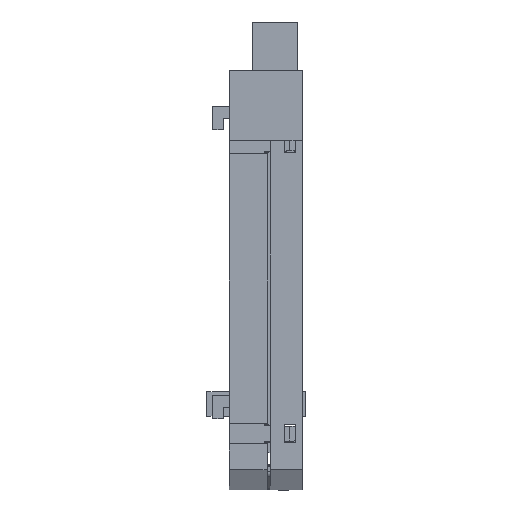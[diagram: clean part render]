
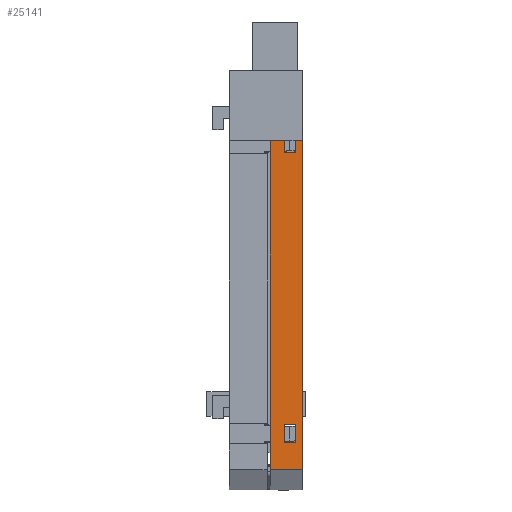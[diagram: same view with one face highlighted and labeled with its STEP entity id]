
A CAD part, front view. The second image highlights one B-rep face of the part: STEP entity #25141.
In plain terms, the highlighted planar face has unit normal (0, -1, 0).
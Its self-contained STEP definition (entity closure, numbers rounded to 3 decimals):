
#47 = PLANE ( 'NONE',  #30009 ) ;
#189 = FACE_BOUND ( 'NONE', #6958, .T. ) ;
#604 = VERTEX_POINT ( 'NONE', #24898 ) ;
#829 = DIRECTION ( 'NONE',  ( -1., 0., 0. ) ) ;
#859 = VERTEX_POINT ( 'NONE', #8167 ) ;
#1031 = DIRECTION ( 'NONE',  ( -1., 0., 0. ) ) ;
#1225 = LINE ( 'NONE', #25618, #14105 ) ;
#1381 = EDGE_CURVE ( 'NONE', #19995, #21023, #2357, .T. ) ;
#1575 = DIRECTION ( 'NONE',  ( 0., 0., 1. ) ) ;
#1916 = ORIENTED_EDGE ( 'NONE', *, *, #19039, .T. ) ;
#2357 = LINE ( 'NONE', #23111, #9174 ) ;
#2666 = DIRECTION ( 'NONE',  ( 0., 0., 1. ) ) ;
#3485 = LINE ( 'NONE', #18743, #30043 ) ;
#3548 = CARTESIAN_POINT ( 'NONE',  ( 2.4, 0., -7.845 ) ) ;
#3835 = VERTEX_POINT ( 'NONE', #4363 ) ;
#4275 = EDGE_CURVE ( 'NONE', #30910, #5687, #33279, .T. ) ;
#4363 = CARTESIAN_POINT ( 'NONE',  ( 5.5, 0., 0. ) ) ;
#4478 = EDGE_CURVE ( 'NONE', #21495, #859, #13908, .T. ) ;
#4678 = CARTESIAN_POINT ( 'NONE',  ( 4.4, 0., -60.645 ) ) ;
#4837 = LINE ( 'NONE', #11625, #30613 ) ;
#5123 = DIRECTION ( 'NONE',  ( 0., 0., -1. ) ) ;
#5687 = VERTEX_POINT ( 'NONE', #22023 ) ;
#6257 = CARTESIAN_POINT ( 'NONE',  ( 2.4, 0., -7.845 ) ) ;
#6538 = EDGE_CURVE ( 'NONE', #3835, #7042, #4837, .T. ) ;
#6659 = VECTOR ( 'NONE', #829, 1000. ) ;
#6958 = EDGE_LOOP ( 'NONE', ( #23802, #1916, #22637, #26232 ) ) ;
#7042 = VERTEX_POINT ( 'NONE', #19117 ) ;
#7407 = ORIENTED_EDGE ( 'NONE', *, *, #17652, .T. ) ;
#8167 = CARTESIAN_POINT ( 'NONE',  ( 4.4, 0., -57.545 ) ) ;
#8223 = CARTESIAN_POINT ( 'NONE',  ( 2.4, 0., -57.545 ) ) ;
#9174 = VECTOR ( 'NONE', #5123, 1000. ) ;
#9333 = CARTESIAN_POINT ( 'NONE',  ( 2.4, 0., -10.945 ) ) ;
#10602 = VECTOR ( 'NONE', #14071, 1000. ) ;
#10751 = VECTOR ( 'NONE', #1575, 1000. ) ;
#10988 = EDGE_CURVE ( 'NONE', #859, #22355, #1225, .T. ) ;
#11625 = CARTESIAN_POINT ( 'NONE',  ( 5.5, 0., 0. ) ) ;
#11927 = LINE ( 'NONE', #13631, #25572 ) ;
#12414 = ORIENTED_EDGE ( 'NONE', *, *, #25861, .T. ) ;
#13019 = VECTOR ( 'NONE', #24086, 1000. ) ;
#13183 = VECTOR ( 'NONE', #1031, 1000. ) ;
#13601 = CARTESIAN_POINT ( 'NONE',  ( 5.5, 0., 0. ) ) ;
#13631 = CARTESIAN_POINT ( 'NONE',  ( 2.4, 0., -60.645 ) ) ;
#13908 = LINE ( 'NONE', #19710, #29583 ) ;
#14071 = DIRECTION ( 'NONE',  ( 0., 0., 1. ) ) ;
#14105 = VECTOR ( 'NONE', #15405, 1000. ) ;
#14574 = VERTEX_POINT ( 'NONE', #6257 ) ;
#15405 = DIRECTION ( 'NONE',  ( 0., 0., -1. ) ) ;
#15450 = CARTESIAN_POINT ( 'NONE',  ( 5.5, 0., 0. ) ) ;
#16768 = LINE ( 'NONE', #9333, #10751 ) ;
#16877 = ORIENTED_EDGE ( 'NONE', *, *, #6538, .F. ) ;
#16951 = EDGE_LOOP ( 'NONE', ( #7407, #12414, #29566, #23372 ) ) ;
#17496 = CARTESIAN_POINT ( 'NONE',  ( 4.4, 0., -10.945 ) ) ;
#17652 = EDGE_CURVE ( 'NONE', #22355, #30899, #11927, .T. ) ;
#18040 = DIRECTION ( 'NONE',  ( 0., 1., 0. ) ) ;
#18743 = CARTESIAN_POINT ( 'NONE',  ( 4.4, 0., -10.945 ) ) ;
#18838 = CARTESIAN_POINT ( 'NONE',  ( 2.4, 0., -10.945 ) ) ;
#19039 = EDGE_CURVE ( 'NONE', #14574, #604, #19863, .T. ) ;
#19117 = CARTESIAN_POINT ( 'NONE',  ( 5.5, 0., -65.25 ) ) ;
#19710 = CARTESIAN_POINT ( 'NONE',  ( 2.4, 0., -57.545 ) ) ;
#19863 = LINE ( 'NONE', #3548, #13019 ) ;
#19911 = FACE_BOUND ( 'NONE', #16951, .T. ) ;
#19995 = VERTEX_POINT ( 'NONE', #20918 ) ;
#20176 = EDGE_LOOP ( 'NONE', ( #31852, #29639, #16877, #27873 ) ) ;
#20918 = CARTESIAN_POINT ( 'NONE',  ( 0., 0., 0. ) ) ;
#20956 = VECTOR ( 'NONE', #31624, 1000. ) ;
#21023 = VERTEX_POINT ( 'NONE', #30320 ) ;
#21333 = DIRECTION ( 'NONE',  ( 0., 0., -1. ) ) ;
#21495 = VERTEX_POINT ( 'NONE', #8223 ) ;
#21536 = FACE_OUTER_BOUND ( 'NONE', #20176, .T. ) ;
#21711 = CARTESIAN_POINT ( 'NONE',  ( 2.4, 0., -60.645 ) ) ;
#22023 = CARTESIAN_POINT ( 'NONE',  ( 2.4, 0., -10.945 ) ) ;
#22355 = VERTEX_POINT ( 'NONE', #4678 ) ;
#22563 = CARTESIAN_POINT ( 'NONE',  ( 2.4, 0., -60.645 ) ) ;
#22637 = ORIENTED_EDGE ( 'NONE', *, *, #28982, .T. ) ;
#22656 = EDGE_CURVE ( 'NONE', #7042, #21023, #32964, .T. ) ;
#23111 = CARTESIAN_POINT ( 'NONE',  ( 0., 0., 0. ) ) ;
#23372 = ORIENTED_EDGE ( 'NONE', *, *, #10988, .T. ) ;
#23802 = ORIENTED_EDGE ( 'NONE', *, *, #24320, .T. ) ;
#24086 = DIRECTION ( 'NONE',  ( 1., 0., 0. ) ) ;
#24320 = EDGE_CURVE ( 'NONE', #5687, #14574, #16768, .T. ) ;
#24416 = DIRECTION ( 'NONE',  ( 0., 0., -1. ) ) ;
#24898 = CARTESIAN_POINT ( 'NONE',  ( 4.4, 0., -7.845 ) ) ;
#25063 = LINE ( 'NONE', #21711, #10602 ) ;
#25141 = ADVANCED_FACE ( 'NONE', ( #189, #19911, #21536 ), #47, .F. ) ;
#25572 = VECTOR ( 'NONE', #31661, 1000. ) ;
#25618 = CARTESIAN_POINT ( 'NONE',  ( 4.4, 0., -60.645 ) ) ;
#25861 = EDGE_CURVE ( 'NONE', #30899, #21495, #25063, .T. ) ;
#26232 = ORIENTED_EDGE ( 'NONE', *, *, #4275, .T. ) ;
#26953 = LINE ( 'NONE', #13601, #20956 ) ;
#27416 = EDGE_CURVE ( 'NONE', #3835, #19995, #26953, .T. ) ;
#27873 = ORIENTED_EDGE ( 'NONE', *, *, #27416, .T. ) ;
#28982 = EDGE_CURVE ( 'NONE', #604, #30910, #3485, .T. ) ;
#29566 = ORIENTED_EDGE ( 'NONE', *, *, #4478, .T. ) ;
#29583 = VECTOR ( 'NONE', #32578, 1000. ) ;
#29639 = ORIENTED_EDGE ( 'NONE', *, *, #22656, .F. ) ;
#30009 = AXIS2_PLACEMENT_3D ( 'NONE', #15450, #18040, #2666 ) ;
#30043 = VECTOR ( 'NONE', #21333, 1000. ) ;
#30320 = CARTESIAN_POINT ( 'NONE',  ( 0., 0., -65.25 ) ) ;
#30613 = VECTOR ( 'NONE', #24416, 1000. ) ;
#30899 = VERTEX_POINT ( 'NONE', #22563 ) ;
#30910 = VERTEX_POINT ( 'NONE', #17496 ) ;
#31624 = DIRECTION ( 'NONE',  ( -1., 0., 0. ) ) ;
#31661 = DIRECTION ( 'NONE',  ( -1., 0., 0. ) ) ;
#31852 = ORIENTED_EDGE ( 'NONE', *, *, #1381, .T. ) ;
#31868 = CARTESIAN_POINT ( 'NONE',  ( 5.5, 0., -65.25 ) ) ;
#32578 = DIRECTION ( 'NONE',  ( 1., 0., 0. ) ) ;
#32964 = LINE ( 'NONE', #31868, #13183 ) ;
#33279 = LINE ( 'NONE', #18838, #6659 ) ;
